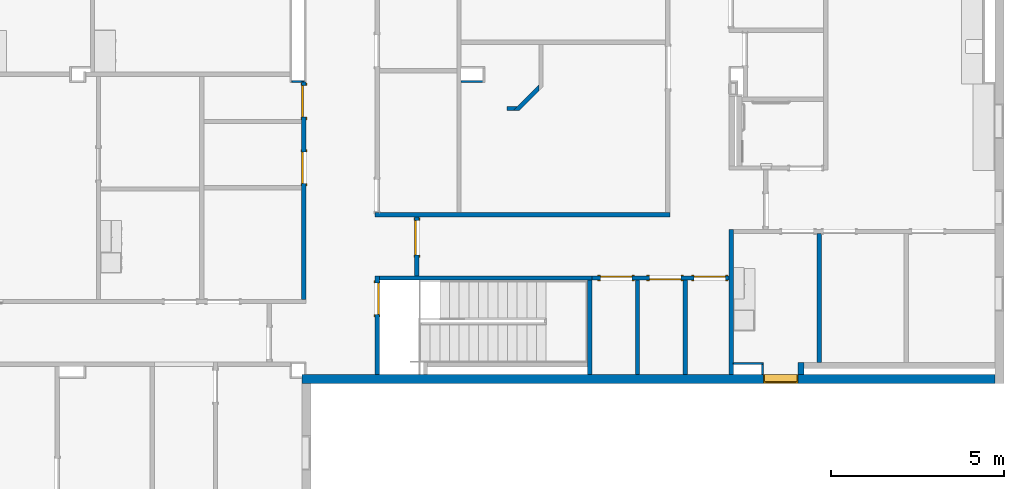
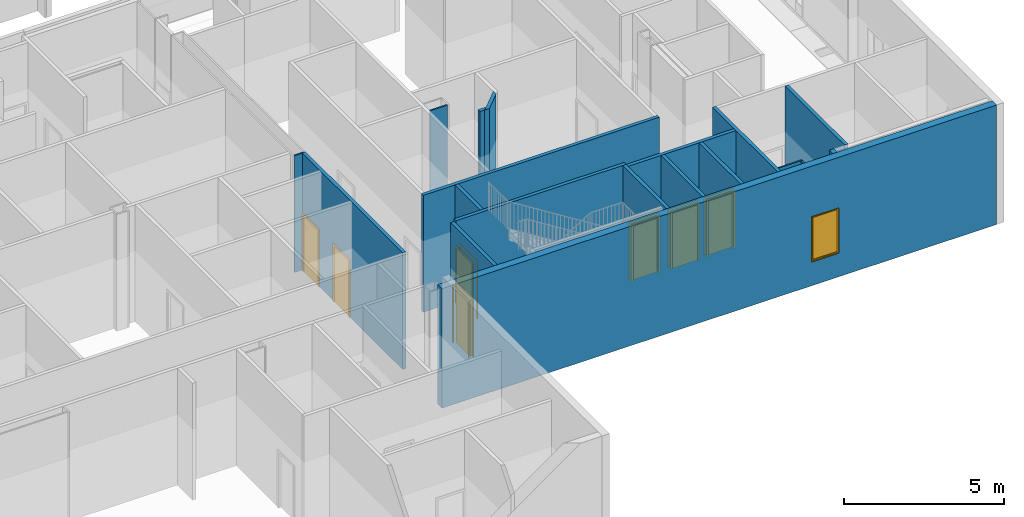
# One storey, part 23 of 82: 19 walls, 7 doors, 1 window, 8 openings.
"""IFC2X3 building model written with IfcOpenShell, lengths in metres."""

from ifc_helpers import new_model, entity, si_unit, converted_unit, frame, frame_2d, origin, origin_2d_with_axis, place, context, project, spatial, polyline, rectangle, outline, extrude, source, transform, mapped, material, layer, layer_set, layer_usage, type_object, type_shapes, element, fill, save


model = new_model("IFC2X3")

# Units and contexts
model_context = context("Model", 3, precision=1e-09, world=origin())
plan_context = context("Plan", 3, precision=1e-09, world=origin())
ifc_project = project(units=[si_unit("LENGTHUNIT", "METRE"), si_unit("AREAUNIT", "SQUARE_METRE"), si_unit("VOLUMEUNIT", "CUBIC_METRE"), converted_unit("PLANEANGLEUNIT", "DEGREE", entity("IfcRatioMeasure", 0.01745329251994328), si_unit("PLANEANGLEUNIT", "RADIAN"), dimensions=[0, 0, 0, 0, 0, 0, 0]), si_unit("TIMEUNIT", "SECOND")], contexts=[model_context, plan_context])

# Site, building, storey
site_placement = place(None, origin())
site = spatial("IfcSite", under=ifc_project, at=site_placement, Name="Default", CompositionType="ELEMENT")
building_placement = place(site_placement, origin())
building = spatial("IfcBuilding", under=site, at=building_placement, CompositionType="ELEMENT")
storey_placement = place(building_placement, origin())
storey = spatial("IfcBuildingStorey", under=building, at=storey_placement, Name="First Floor", CompositionType="ELEMENT", Elevation=-3.531500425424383e-13)

# Wall, opening, window
ifc_material_1 = material(Name="Insulation - Insulated Panel")
ifc_layer_1 = layer(ifc_material_1, 0.042)
ifc_material_2 = material(Name="Metal - Firring")
ifc_layer_2 = layer(ifc_material_2, 0.038)
ifc_material_3 = material(Name="Wood - Sheathing - plywood")
ifc_layer_3 = layer(ifc_material_3, 0.019)
ifc_material_4 = material(Name="Metal - Stud Layer")
ifc_layer_4 = layer(ifc_material_4, 0.152)
ifc_material_5 = material(Name="Plasterboard")
ifc_layer_5 = layer(ifc_material_5, 0.016)
ifc_layer_set_1 = layer_set([ifc_layer_1, ifc_layer_2, ifc_layer_3, ifc_layer_4, ifc_layer_5], Name="Basic Wall:Exterior - Insul Panel on Mtl. Stud")
ifc_layer_usage_1 = layer_usage(ifc_layer_set_1, "AXIS2", "NEGATIVE", 0.1335)
wall_1_placement = place(storey_placement, frame((0.112999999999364, 9.793499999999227, 0.0), z_axis=(0.0, 0.0, 1.0), x_axis=(-1.0, 0.0, 0.0)))
wall_1 = element("IfcWallStandardCase", 1, at=wall_1_placement, inside=storey, material=ifc_layer_usage_1, Name="Basic Wall:Exterior - Insul Panel on Mtl. Stud", ObjectType="Basic Wall:Exterior - Insul Panel on Mtl. Stud", context=model_context, shape_type="SweptSolid", body=[
    extrude(rectangle(XDim=20.06000000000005, YDim=0.267, at=frame_2d((10.03000000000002, 0.0), x_axis=(-1.0, 0.0))), origin(), (0.0, 0.0, 1.0), 4.57000000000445),
])
opening_1_placement = place(wall_1_placement, frame((5.696303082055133, -0.1335000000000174, 0.9049999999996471)))
opening_1 = element("IfcOpeningElement", 2, at=opening_1_placement, cuts=wall_1, Name="M_Fixed:1735 x 1000mm:1735 x 1000mm:1", ObjectType="Opening", context=model_context, shape_type="SweptSolid", body=[
    extrude(rectangle(XDim=1.734999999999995, YDim=0.9999999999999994, at=frame_2d((0.8674999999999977, 0.5000000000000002), x_axis=(1.0, 0.0))), frame((0.0, 0.0, 0.0), z_axis=(0.0, 1.0, 0.0), x_axis=(0.0, 0.0, 1.0)), (0.0, 0.0, 1.0), 0.267),
])
window_style = type_object("IfcWindowStyle", Name="1735 x 1000mm", ConstructionType="NOTDEFINED", OperationType="NOTDEFINED", ParameterTakesPrecedence=False, Sizeable=False)
shared_shape_1 = source(origin(), model_context, "Body", "SweptSolid", [
    extrude(rectangle(XDim=0.012, YDim=0.873999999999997, at=origin_2d_with_axis()), frame((0.5000000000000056, 0.2259999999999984, 0.06299999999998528), z_axis=(0.0, 0.0, 1.0), x_axis=(0.0, -1.0, 0.0)), (0.0, 0.0, 1.0), 1.609000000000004),
    extrude(outline(polyline([(-0.4809999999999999, -0.8485000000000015), (0.4809999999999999, -0.8485000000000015), (0.4809999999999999, 0.8485000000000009), (-0.4809999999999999, 0.8485000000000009), (-0.4809999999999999, -0.8485000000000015)]), holes=[polyline([(-0.4369999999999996, -0.8045000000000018), (-0.4369999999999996, 0.8045000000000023), (0.4369999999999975, 0.8045000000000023), (0.4369999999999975, -0.8045000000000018), (-0.4369999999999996, -0.8045000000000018)])]), frame((0.5000000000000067, 0.203999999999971, 0.8674999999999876), z_axis=(0.0, 1.0, 0.0), x_axis=(1.0, 0.0, 0.0)), (0.0, 0.0, 1.0), 0.04400000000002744),
    extrude(outline(polyline([(-0.4999999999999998, -0.8674999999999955), (0.4999999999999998, -0.8674999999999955), (0.4999999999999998, 0.8674999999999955), (-0.4999999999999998, 0.8674999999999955), (-0.4999999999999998, -0.8674999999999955)]), holes=[polyline([(-0.4810000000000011, -0.8484999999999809), (-0.4810000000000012, 0.8485000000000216), (0.4809999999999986, 0.8485000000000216), (0.4809999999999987, -0.8484999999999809), (-0.4810000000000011, -0.8484999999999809)])]), frame((0.500000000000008, 0.203999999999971, 0.8675000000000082), z_axis=(0.0, 1.0, 0.0), x_axis=(1.0, 0.0, 0.0)), (0.0, 0.0, 1.0), 0.06300000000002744),
    extrude(outline(polyline([(-0.5000000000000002, -0.867499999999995), (0.5000000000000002, -0.867499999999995), (0.5000000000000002, 0.867499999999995), (-0.5000000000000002, 0.867499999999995), (-0.5000000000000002, -0.867499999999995)]), holes=[polyline([(-0.4679999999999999, -0.8354999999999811), (-0.4679999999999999, 0.8355000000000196), (0.4680000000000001, 0.8355000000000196), (0.4680000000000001, -0.8354999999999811), (-0.4679999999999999, -0.8354999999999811)])]), frame((0.5000000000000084, 0.0, 0.8675000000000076), z_axis=(0.0, 1.0, 0.0), x_axis=(1.0, 0.0, 0.0)), (0.0, 0.0, 1.0), 0.2039999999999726),
])
type_shapes(window_style, [shared_shape_1])
window_placement = place(opening_1_placement, origin())
window = element("IfcWindow", 3, at=window_placement, inside=storey, type_object=window_style, Name="M_Fixed:1735 x 1000mm:1735 x 1000mm", ObjectType="1735 x 1000mm", OverallHeight=1.734999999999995, OverallWidth=1.0, context=model_context, shape_type="MappedRepresentation", body=[
    mapped(shared_shape_1, transform((0.0, 0.0, 0.0), scale=1.0)),
])
fill(opening_1, window)

# Wall, openings, doors
ifc_layer_6 = layer(ifc_material_5, 0.016)
ifc_layer_7 = layer(ifc_material_4, 0.092)
ifc_layer_8 = layer(ifc_material_5, 0.016)
ifc_layer_set_2 = layer_set([ifc_layer_6, ifc_layer_7, ifc_layer_8], Name="Basic Wall:Interior - Partition (92mm Stud)")
ifc_layer_usage_2 = layer_usage(ifc_layer_set_2, "AXIS2", "NEGATIVE", 0.062)
wall_2_placement = place(storey_placement, frame((-11.54999985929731, 12.71799999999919, 0.0)))
wall_2 = element("IfcWallStandardCase", 4, at=wall_2_placement, inside=storey, material=ifc_layer_usage_2, Name="Basic Wall:Interior - Partition (92mm Stud)", ObjectType="Basic Wall:Interior - Partition (92mm Stud)", context=model_context, shape_type="SweptSolid", body=[
    extrude(rectangle(XDim=3.970024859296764, YDim=0.1240000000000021, at=frame_2d((1.985012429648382, 0.0), x_axis=(-1.0, 0.0))), origin(), (0.0, 0.0, 1.0), 4.468000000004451),
])
opening_2_placement = place(wall_2_placement, frame((0.2409998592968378, -0.06200000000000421, 0.0)))
opening_2 = element("IfcOpeningElement", 5, at=opening_2_placement, cuts=wall_2, Name=":1", ObjectType="Opening", context=model_context, shape_type="SweptSolid", body=[
    extrude(rectangle(XDim=0.9149999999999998, YDim=2.134, at=frame_2d((1.067, 0.4575000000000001), x_axis=(0.0, -1.0))), frame((0.0, 0.0, 0.0), z_axis=(0.0, 1.0, 0.0), x_axis=(0.0, 0.0, 1.0)), (0.0, 0.0, 1.0), 0.124),
])
opening_3_placement = place(wall_2_placement, frame((2.95502485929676, -0.0620000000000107, 0.0)))
opening_3 = element("IfcOpeningElement", 6, at=opening_3_placement, cuts=wall_2, Name=":1", ObjectType="Opening", context=model_context, shape_type="SweptSolid", body=[
    extrude(rectangle(XDim=0.9149999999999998, YDim=2.134, at=frame_2d((1.067, 0.4575), x_axis=(0.0, 1.0))), frame((0.0, 0.0, 0.0), z_axis=(0.0, 1.0, 0.0), x_axis=(0.0, 0.0, 1.0)), (0.0, 0.0, 1.0), 0.124),
])
opening_4_placement = place(wall_2_placement, frame((2.575999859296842, 0.06199999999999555, 0.0)))
opening_4 = element("IfcOpeningElement", 7, at=opening_4_placement, cuts=wall_2, Name=":1", ObjectType="Opening", context=model_context, shape_type="SweptSolid", body=[
    extrude(rectangle(XDim=0.9149999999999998, YDim=2.134, at=frame_2d((1.067, 0.4575000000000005), x_axis=(0.0, -1.0))), frame((0.0, 0.0, 0.0), z_axis=(0.0, -1.0, 0.0), x_axis=(0.0, 0.0, 1.0)), (0.0, 0.0, 1.0), 0.124),
])
door_style_1 = type_object("IfcDoorStyle", Name="0915 x 2134mm", ConstructionType="NOTDEFINED", OperationType="SINGLE_SWING_RIGHT", ParameterTakesPrecedence=False, Sizeable=False)
shared_shape_2 = source(origin(), model_context, "Body", "SweptSolid", [
    extrude(outline(polyline([(-0.5335, -1.123999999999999), (0.5334999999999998, -1.123999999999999), (0.5334999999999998, 1.086), (0.4574999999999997, 1.086), (0.4574999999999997, -1.048000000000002), (-0.4574999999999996, -1.048000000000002), (-0.4574999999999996, 1.086), (-0.5335, 1.086), (-0.5335, -1.123999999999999)])), frame((0.4575000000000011, 0.1239999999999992, 1.086), z_axis=(0.0, 1.0, 0.0), x_axis=(1.0, 0.0, 0.0)), (0.0, 0.0, 1.0), 0.02499999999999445),
    extrude(outline(polyline([(-1.123999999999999, -0.5334999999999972), (1.085999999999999, -0.5334999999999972), (1.085999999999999, -0.4575000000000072), (-1.048, -0.4575000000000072), (-1.048, 0.4575000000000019), (1.085999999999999, 0.4575000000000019), (1.085999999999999, 0.5335000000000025), (-1.123999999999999, 0.5335000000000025), (-1.123999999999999, -0.5334999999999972)])), frame((0.4575000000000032, -0.02500000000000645, 1.085999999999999), z_axis=(0.0, 1.0, 0.0), x_axis=(0.0, 0.0, -1.0)), (0.0, 0.0, 1.0), 0.02500000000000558),
    extrude(rectangle(XDim=0.051, YDim=0.9149999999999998, at=origin_2d_with_axis()), frame((0.4575000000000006, 0.09849999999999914, 0.0), z_axis=(0.0, 0.0, 1.0), x_axis=(0.0, 1.0, 0.0)), (0.0, 0.0, 1.0), 2.133999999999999),
])
type_shapes(door_style_1, [shared_shape_2])
door_1_placement = place(opening_3_placement, origin())
door_1 = element("IfcDoor", 8, at=door_1_placement, inside=storey, type_object=door_style_1, Name="M_Single-Flush:0915 x 2134mm:0915 x 2134mm", ObjectType="0915 x 2134mm", OverallHeight=2.134, OverallWidth=0.9149999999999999, context=model_context, shape_type="MappedRepresentation", body=[
    mapped(shared_shape_2, transform((0.0, 0.0, 0.0), scale=1.0)),
])
fill(opening_3, door_1)
door_style_2 = type_object("IfcDoorStyle", Name="0915 x 2134mm", ConstructionType="NOTDEFINED", OperationType="SINGLE_SWING_LEFT", ParameterTakesPrecedence=False, Sizeable=False)
shared_shape_3 = source(origin(), model_context, "Body", "SweptSolid", [
    extrude(outline(polyline([(-0.5335, -1.123999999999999), (0.5334999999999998, -1.123999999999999), (0.5334999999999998, 1.086), (0.4574999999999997, 1.086), (0.4574999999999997, -1.048000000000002), (-0.4574999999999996, -1.048000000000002), (-0.4574999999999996, 1.086), (-0.5335, 1.086), (-0.5335, -1.123999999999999)])), frame((0.4575000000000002, 0.1489999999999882, 1.086), z_axis=(0.0, -1.0, 0.0), x_axis=(-1.0, 0.0, 0.0)), (0.0, 0.0, 1.0), 0.02499999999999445),
    extrude(outline(polyline([(-1.123999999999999, -0.5334999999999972), (1.085999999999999, -0.5334999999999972), (1.085999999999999, -0.4575000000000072), (-1.048, -0.4575000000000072), (-1.048, 0.4575000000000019), (1.085999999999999, 0.4575000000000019), (1.085999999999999, 0.5335000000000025), (-1.123999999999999, 0.5335000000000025), (-1.123999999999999, -0.5334999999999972)])), frame((0.4574999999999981, 0.0, 1.085999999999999), z_axis=(0.0, -1.0, 0.0), x_axis=(0.0, 0.0, -1.0)), (0.0, 0.0, 1.0), 0.02500000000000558),
    extrude(rectangle(XDim=0.9149999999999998, YDim=0.051, at=origin_2d_with_axis()), frame((0.4575000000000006, 0.09849999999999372, 0.0)), (0.0, 0.0, 1.0), 2.133999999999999),
])
type_shapes(door_style_2, [shared_shape_3])
door_2_placement = place(opening_4_placement, frame((0.0, 0.0, 0.0), z_axis=(0.0, 0.0, 1.0), x_axis=(-1.0, 0.0, 0.0)))
door_2 = element("IfcDoor", 9, at=door_2_placement, inside=storey, type_object=door_style_2, Name="M_Single-Flush:0915 x 2134mm:0915 x 2134mm", ObjectType="0915 x 2134mm", OverallHeight=2.134, OverallWidth=0.9149999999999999, context=model_context, shape_type="MappedRepresentation", body=[
    mapped(shared_shape_3, transform((0.0, 0.0, 0.0), scale=1.0)),
])
fill(opening_4, door_2)
door_3_placement = place(opening_2_placement, origin())
door_3 = element("IfcDoor", 10, at=door_3_placement, inside=storey, type_object=door_style_2, Name="M_Single-Flush:0915 x 2134mm:0915 x 2134mm", ObjectType="0915 x 2134mm", OverallHeight=2.134, OverallWidth=0.9149999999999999, context=model_context, shape_type="MappedRepresentation", body=[
    mapped(shared_shape_3, transform((0.0, 0.0, 0.0), scale=1.0)),
])
fill(opening_2, door_3)

wall_3_placement = place(storey_placement, frame((-19.89200000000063, 18.40699999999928, 0.0), z_axis=(0.0, 0.0, 1.0), x_axis=(0.0, -1.0, 0.0)))
wall_3 = element("IfcWallStandardCase", 11, at=wall_3_placement, inside=storey, material=ifc_layer_usage_2, Name="Basic Wall:Interior - Partition (92mm Stud)", ObjectType="Basic Wall:Interior - Partition (92mm Stud)", context=model_context, shape_type="SweptSolid", body=[
    extrude(rectangle(XDim=6.303000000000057, YDim=0.1239999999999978, at=frame_2d((3.151500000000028, 0.0), x_axis=(-1.0, 0.0))), origin(), (0.0, 0.0, 1.0), 4.468000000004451),
])
opening_5_placement = place(wall_3_placement, frame((1.03299999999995, 0.06200000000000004, 0.0)))
opening_5 = element("IfcOpeningElement", 12, at=opening_5_placement, cuts=wall_3, Name="M_Single-Flush:0915 x 2134mm:0915 x 2134mm:1", ObjectType="Opening", context=model_context, shape_type="SweptSolid", body=[
    extrude(rectangle(XDim=0.9149999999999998, YDim=2.134, at=frame_2d((1.067, 0.4575000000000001), x_axis=(0.0, -1.0))), frame((0.0, 0.0, 0.0), z_axis=(0.0, -1.0, 0.0), x_axis=(0.0, 0.0, 1.0)), (0.0, 0.0, 1.0), 0.124),
])
opening_6_placement = place(wall_3_placement, frame((2.953000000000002, 0.06199999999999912, 0.0)))
opening_6 = element("IfcOpeningElement", 13, at=opening_6_placement, cuts=wall_3, Name="M_Single-Flush:0915 x 2134mm:0915 x 2134mm:1", ObjectType="Opening", context=model_context, shape_type="SweptSolid", body=[
    extrude(rectangle(XDim=0.9149999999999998, YDim=2.134, at=frame_2d((1.067, 0.4574999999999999), x_axis=(0.0, -1.0))), frame((0.0, 0.0, 0.0), z_axis=(0.0, -1.0, 0.0), x_axis=(0.0, 0.0, 1.0)), (0.0, 0.0, 1.0), 0.124),
])
door_4_placement = place(opening_5_placement, frame((0.0, 0.0, 0.0), z_axis=(0.0, 0.0, 1.0), x_axis=(-1.0, 0.0, 0.0)))
door_4 = element("IfcDoor", 14, at=door_4_placement, inside=storey, type_object=door_style_2, Name="M_Single-Flush:0915 x 2134mm:0915 x 2134mm", ObjectType="0915 x 2134mm", OverallHeight=2.134, OverallWidth=0.9149999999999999, context=model_context, shape_type="MappedRepresentation", body=[
    mapped(shared_shape_3, transform((0.0, 0.0, 0.0), scale=1.0)),
])
fill(opening_5, door_4)
door_5_placement = place(opening_6_placement, frame((0.0, 0.0, 0.0), z_axis=(0.0, 0.0, 1.0), x_axis=(-1.0, 0.0, 0.0)))
door_5 = element("IfcDoor", 15, at=door_5_placement, inside=storey, type_object=door_style_2, Name="M_Single-Flush:0915 x 2134mm:0915 x 2134mm", ObjectType="0915 x 2134mm", OverallHeight=2.134, OverallWidth=0.9149999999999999, context=model_context, shape_type="MappedRepresentation", body=[
    mapped(shared_shape_3, transform((0.0, 0.0, 0.0), scale=1.0)),
])
fill(opening_6, door_5)

# Walls
wall_4_placement = place(storey_placement, frame((-9.2899750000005, 14.55199999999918, 0.0), z_axis=(0.0, 0.0, 1.0), x_axis=(-1.0, 0.0, 0.0)))
element("IfcWallStandardCase", 16, at=wall_4_placement, inside=storey, material=ifc_layer_usage_2, Name="Basic Wall:Interior - Partition (92mm Stud)", ObjectType="Basic Wall:Interior - Partition (92mm Stud)", context=model_context, shape_type="SweptSolid", body=[
    extrude(rectangle(XDim=8.540025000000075, YDim=0.1240000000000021, at=frame_2d((4.270012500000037, 0.0), x_axis=(-1.0, 0.0))), origin(), (0.0, 0.0, 1.0), 4.468000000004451),
])
wall_5_placement = place(storey_placement, frame((-7.517975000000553, 9.92699999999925, 0.0), z_axis=(0.0, 0.0, 1.0), x_axis=(0.0, 1.0, 0.0)))
element("IfcWallStandardCase", 17, at=wall_5_placement, inside=storey, material=ifc_layer_usage_2, Name="Basic Wall:Interior - Partition (92mm Stud)", ObjectType="Basic Wall:Interior - Partition (92mm Stud)", context=model_context, shape_type="SweptSolid", body=[
    extrude(rectangle(XDim=4.202999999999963, YDim=0.124, at=frame_2d((2.101499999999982, 0.0), x_axis=(-1.0, 0.0))), origin(), (0.0, 0.0, 1.0), 4.468000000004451),
])
ifc_material_6 = material(Name="Type-X Plasterboard")
ifc_layer_9 = layer(ifc_material_6, 0.016)
ifc_layer_10 = layer(ifc_material_4, 0.092)
ifc_layer_11 = layer(ifc_material_6, 0.016)
ifc_layer_set_3 = layer_set([ifc_layer_9, ifc_layer_10, ifc_layer_11], Name="Basic Wall:Interior - Rated 1-HR (92mm Stud)")
ifc_layer_usage_3 = layer_usage(ifc_layer_set_3, "AXIS2", "NEGATIVE", 0.06200000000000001)
wall_6_placement = place(storey_placement, frame((-17.70600000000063, 12.71799999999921, 0.0)))
element("IfcWallStandardCase", 18, at=wall_6_placement, inside=storey, material=ifc_layer_usage_3, Name="Basic Wall:Interior - Rated 1-HR (92mm Stud)", ObjectType="Basic Wall:Interior - Rated 1-HR (92mm Stud)", context=model_context, shape_type="SweptSolid", body=[
    extrude(rectangle(XDim=6.156000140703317, YDim=0.1240000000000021, at=frame_2d((3.078000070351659, 0.0), x_axis=(-1.0, 0.0))), origin(), (0.0, 0.0, 1.0), 4.570000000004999),
])
wall_7_placement = place(storey_placement, frame((-11.61199985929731, 12.65599999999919, 0.0), z_axis=(0.0, 0.0, 1.0), x_axis=(0.0, -1.0, 0.0)))
element("IfcWallStandardCase", 19, at=wall_7_placement, inside=storey, material=ifc_layer_usage_3, Name="Basic Wall:Interior - Rated 1-HR (92mm Stud)", ObjectType="Basic Wall:Interior - Rated 1-HR (92mm Stud)", context=model_context, shape_type="SweptSolid", body=[
    extrude(rectangle(XDim=2.728999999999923, YDim=0.1240000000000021, at=frame_2d((1.364499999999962, 0.0), x_axis=(-1.0, 0.0))), origin(), (0.0, 0.0, 1.0), 4.570000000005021),
])

# Wall, opening, door
wall_8_placement = place(storey_placement, frame((-17.76800000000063, 9.926999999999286, 0.0), z_axis=(0.0, 0.0, 1.0), x_axis=(0.0, 1.0, 0.0)))
wall_8 = element("IfcWallStandardCase", 20, at=wall_8_placement, inside=storey, material=ifc_layer_usage_3, Name="Basic Wall:Interior - Rated 1-HR (92mm Stud)", ObjectType="Basic Wall:Interior - Rated 1-HR (92mm Stud)", context=model_context, shape_type="SweptSolid", body=[
    extrude(rectangle(XDim=2.852999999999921, YDim=0.1240000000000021, at=frame_2d((1.426499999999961, 0.0), x_axis=(-1.0, 0.0))), origin(), (0.0, 0.0, 1.0), 4.46800000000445),
])
opening_7_placement = place(wall_8_placement, frame((2.648999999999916, 0.06199999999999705, 0.0)))
opening_7 = element("IfcOpeningElement", 21, at=opening_7_placement, cuts=wall_8, Name="M_Single-Flush:0915 x 2134mm Rated:0915 x 2134mm Rated:1", ObjectType="Opening", context=model_context, shape_type="SweptSolid", body=[
    extrude(rectangle(XDim=0.9149999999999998, YDim=2.134, at=frame_2d((1.067, 0.4574999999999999), x_axis=(0.0, -1.0))), frame((0.0, 0.0, 0.0), z_axis=(0.0, -1.0, 0.0), x_axis=(0.0, 0.0, 1.0)), (0.0, 0.0, 1.0), 0.124),
])
door_style_3 = type_object("IfcDoorStyle", Name="0915 x 2134mm Rated", ConstructionType="NOTDEFINED", OperationType="SINGLE_SWING_LEFT", ParameterTakesPrecedence=False, Sizeable=False)
shared_shape_4 = source(origin(), model_context, "Body", "SweptSolid", [
    extrude(outline(polyline([(-0.5335, -1.123999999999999), (0.5334999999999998, -1.123999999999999), (0.5334999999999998, 1.086), (0.4574999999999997, 1.086), (0.4574999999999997, -1.048000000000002), (-0.4574999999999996, -1.048000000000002), (-0.4574999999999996, 1.086), (-0.5335, 1.086), (-0.5335, -1.123999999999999)])), frame((0.4575000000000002, 0.1489999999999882, 1.086), z_axis=(0.0, -1.0, 0.0), x_axis=(-1.0, 0.0, 0.0)), (0.0, 0.0, 1.0), 0.02499999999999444),
    extrude(outline(polyline([(-1.123999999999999, -0.5334999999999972), (1.085999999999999, -0.5334999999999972), (1.085999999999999, -0.4575000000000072), (-1.048, -0.4575000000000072), (-1.048, 0.4575000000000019), (1.085999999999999, 0.4575000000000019), (1.085999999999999, 0.5335000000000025), (-1.123999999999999, 0.5335000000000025), (-1.123999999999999, -0.5334999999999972)])), frame((0.4574999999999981, 0.0, 1.085999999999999), z_axis=(0.0, -1.0, 0.0), x_axis=(0.0, 0.0, -1.0)), (0.0, 0.0, 1.0), 0.02500000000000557),
    extrude(rectangle(XDim=0.9149999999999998, YDim=0.051, at=origin_2d_with_axis()), frame((0.4575000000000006, 0.09849999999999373, 0.0)), (0.0, 0.0, 1.0), 2.133999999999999),
])
type_shapes(door_style_3, [shared_shape_4])
door_6_placement = place(opening_7_placement, frame((0.0, 0.0, 0.0), z_axis=(0.0, 0.0, 1.0), x_axis=(-1.0, 0.0, 0.0)))
door_6 = element("IfcDoor", 22, at=door_6_placement, inside=storey, type_object=door_style_3, Name="M_Single-Flush:0915 x 2134mm Rated:0915 x 2134mm Rated", ObjectType="0915 x 2134mm Rated", OverallHeight=2.134, OverallWidth=0.9149999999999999, context=model_context, shape_type="MappedRepresentation", body=[
    mapped(shared_shape_4, transform((0.0, 0.0, 0.0), scale=1.0)),
])
fill(opening_7, door_6)

wall_9_placement = place(storey_placement, frame((-16.61800000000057, 12.7799999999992, 0.0), z_axis=(0.0, 0.0, 1.0), x_axis=(0.0, 1.0, 0.0)))
wall_9 = element("IfcWallStandardCase", 23, at=wall_9_placement, inside=storey, material=ifc_layer_usage_2, Name="Basic Wall:Interior - Partition (92mm Stud)", ObjectType="Basic Wall:Interior - Partition (92mm Stud)", context=model_context, shape_type="SweptSolid", body=[
    extrude(rectangle(XDim=1.709999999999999, YDim=0.1240000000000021, at=frame_2d((0.8549999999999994, 0.0), x_axis=(-1.0, 0.0))), origin(), (0.0, 0.0, 1.0), 4.46800000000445),
])
opening_8_placement = place(wall_9_placement, frame((0.6099999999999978, -0.06200000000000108, 0.0)))
opening_8 = element("IfcOpeningElement", 24, at=opening_8_placement, cuts=wall_9, Name="M_Single-Flush:1000 x 2134mm:1000 x 2134mm:1", ObjectType="Opening", context=model_context, shape_type="SweptSolid", body=[
    extrude(rectangle(XDim=0.9999999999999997, YDim=2.134, at=frame_2d((1.067, 0.5000000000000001), x_axis=(0.0, 1.0))), frame((0.0, 0.0, 0.0), z_axis=(0.0, 1.0, 0.0), x_axis=(0.0, 0.0, 1.0)), (0.0, 0.0, 1.0), 0.124),
])
door_style_4 = type_object("IfcDoorStyle", Name="1000 x 2134mm", ConstructionType="NOTDEFINED", OperationType="SINGLE_SWING_RIGHT", ParameterTakesPrecedence=False, Sizeable=False)
shared_shape_5 = source(origin(), model_context, "Body", "SweptSolid", [
    extrude(outline(polyline([(-0.576, -1.123999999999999), (0.5759999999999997, -1.123999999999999), (0.5759999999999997, 1.086), (0.4999999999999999, 1.086), (0.4999999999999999, -1.048000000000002), (-0.4999999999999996, -1.048000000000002), (-0.4999999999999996, 1.086), (-0.576, 1.086), (-0.576, -1.123999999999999)])), frame((0.5000000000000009, 0.1239999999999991, 1.086), z_axis=(0.0, 1.0, 0.0), x_axis=(1.0, 0.0, 0.0)), (0.0, 0.0, 1.0), 0.02499999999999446),
    extrude(outline(polyline([(-1.124, -0.575999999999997), (1.086, -0.575999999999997), (1.086, -0.5000000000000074), (-1.048, -0.5000000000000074), (-1.048, 0.5000000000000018), (1.086, 0.5000000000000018), (1.086, 0.5760000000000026), (-1.124, 0.5760000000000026), (-1.124, -0.575999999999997)])), frame((0.5000000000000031, -0.02500000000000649, 1.086), z_axis=(0.0, 1.0, 0.0), x_axis=(0.0, 0.0, -1.0)), (0.0, 0.0, 1.0), 0.02500000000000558),
    extrude(rectangle(XDim=0.051, YDim=0.9999999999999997, at=origin_2d_with_axis()), frame((0.5000000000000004, 0.09849999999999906, 0.0), z_axis=(0.0, 0.0, 1.0), x_axis=(0.0, 1.0, 0.0)), (0.0, 0.0, 1.0), 2.133999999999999),
])
type_shapes(door_style_4, [shared_shape_5])
door_7_placement = place(opening_8_placement, origin())
door_7 = element("IfcDoor", 25, at=door_7_placement, inside=storey, type_object=door_style_4, Name="M_Single-Flush:1000 x 2134mm:1000 x 2134mm", ObjectType="1000 x 2134mm", OverallHeight=2.134, OverallWidth=1.0, context=model_context, shape_type="MappedRepresentation", body=[
    mapped(shared_shape_5, transform((0.0, 0.0, 0.0), scale=1.0)),
])
fill(opening_8, door_7)

# Walls
ifc_layer_12 = layer(ifc_material_4, 0.038)
ifc_layer_13 = layer(ifc_material_5, 0.016)
ifc_layer_set_4 = layer_set([ifc_layer_12, ifc_layer_13], Name="Basic Wall:Interior - Furring (38 mm Stud)")
ifc_layer_usage_4 = layer_usage(ifc_layer_set_4, "AXIS2", "NEGATIVE", 0.027)
wall_10_placement = place(storey_placement, frame((-20.23600000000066, 18.40699999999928, 0.0)))
element("IfcWallStandardCase", 26, at=wall_10_placement, inside=storey, material=ifc_layer_usage_4, Name="Basic Wall:Interior - Furring (38 mm Stud)", ObjectType="Basic Wall:Interior - Furring (38 mm Stud)", context=model_context, shape_type="SweptSolid", body=[
    extrude(outline(polyline([(0.2820000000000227, -0.02700000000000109), (0.2820000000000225, 0.0), (0.352000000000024, 0.0), (0.3520000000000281, 0.02699999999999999), (0.0, 0.02700000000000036), (0.0, -0.02700000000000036), (0.2820000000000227, -0.02700000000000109)])), origin(), (0.0, 0.0, 1.0), 4.468000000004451),
])
wall_11_placement = place(storey_placement, frame((-4.967975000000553, 10.26999999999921, 0.0), z_axis=(0.0, 0.0, 1.0), x_axis=(0.0, 1.0, 0.0)))
element("IfcWallStandardCase", 27, at=wall_11_placement, inside=storey, material=ifc_layer_usage_2, Name="Basic Wall:Interior - Partition (92mm Stud)", ObjectType="Basic Wall:Interior - Partition (92mm Stud)", context=model_context, shape_type="SweptSolid", body=[
    extrude(rectangle(XDim=3.735999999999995, YDim=0.124, at=frame_2d((1.867999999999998, 0.0), x_axis=(-1.0, 0.0))), origin(), (0.0, 0.0, 1.0), 4.46800000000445),
])
wall_12_placement = place(storey_placement, frame((-10.23200000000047, 12.65599999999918, 0.0), z_axis=(0.0, 0.0, 1.0), x_axis=(0.0, -1.0, 0.0)))
element("IfcWallStandardCase", 28, at=wall_12_placement, inside=storey, material=ifc_layer_usage_2, Name="Basic Wall:Interior - Partition (92mm Stud)", ObjectType="Basic Wall:Interior - Partition (92mm Stud)", context=model_context, shape_type="SweptSolid", body=[
    extrude(rectangle(XDim=2.728999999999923, YDim=0.1240000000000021, at=frame_2d((1.364499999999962, 0.0), x_axis=(-1.0, 0.0))), origin(), (0.0, 0.0, 1.0), 4.46800000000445),
])
wall_13_placement = place(storey_placement, frame((-8.852000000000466, 12.65599999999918, 0.0), z_axis=(0.0, 0.0, 1.0), x_axis=(0.0, -1.0, 0.0)))
element("IfcWallStandardCase", 29, at=wall_13_placement, inside=storey, material=ifc_layer_usage_2, Name="Basic Wall:Interior - Partition (92mm Stud)", ObjectType="Basic Wall:Interior - Partition (92mm Stud)", context=model_context, shape_type="SweptSolid", body=[
    extrude(rectangle(XDim=2.728999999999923, YDim=0.124, at=frame_2d((1.364499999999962, 0.0), x_axis=(-1.0, 0.0))), origin(), (0.0, 0.0, 1.0), 4.46800000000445),
])
ifc_layer_14 = layer(ifc_material_4, 0.152)
ifc_layer_15 = layer(ifc_material_5, 0.016)
ifc_layer_set_5 = layer_set([ifc_layer_14, ifc_layer_15], Name="Basic Wall:Interior - Furring (152 mm Stud)")
ifc_layer_usage_5 = layer_usage(ifc_layer_set_5, "AXIS2", "POSITIVE", -0.08399999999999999)
wall_14_placement = place(storey_placement, frame((-5.49930308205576, 9.926999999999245, 0.0), z_axis=(0.0, 0.0, 1.0), x_axis=(0.0, 1.0, 0.0)))
element("IfcWallStandardCase", 30, at=wall_14_placement, inside=storey, material=ifc_layer_usage_5, Name="Basic Wall:Interior - Furring (152 mm Stud)", ObjectType="Basic Wall:Interior - Furring (152 mm Stud)", context=model_context, shape_type="SweptSolid", body=[
    extrude(rectangle(XDim=0.3429999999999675, YDim=0.1680000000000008, at=frame_2d((0.1714999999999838, 0.0), x_axis=(-1.0, 0.0))), origin(), (0.0, 0.0, 1.0), 4.46800000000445),
])
ifc_layer_usage_6 = layer_usage(ifc_layer_set_4, "AXIS2", "POSITIVE", -0.027)
wall_15_placement = place(storey_placement, frame((-14.70397500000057, 18.40699999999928, 0.0), z_axis=(0.0, 0.0, 1.0), x_axis=(-1.0, 0.0, 0.0)))
element("IfcWallStandardCase", 31, at=wall_15_placement, inside=storey, material=ifc_layer_usage_6, Name="Basic Wall:Interior - Furring (38 mm Stud)", ObjectType="Basic Wall:Interior - Furring (38 mm Stud)", context=model_context, shape_type="SweptSolid", body=[
    extrude(rectangle(XDim=0.6320250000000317, YDim=0.05400000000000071, at=frame_2d((0.3160125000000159, 0.0), x_axis=(-1.0, 0.0))), origin(), (0.0, 0.0, 1.0), 4.46800000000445),
])
wall_16_placement = place(storey_placement, frame((-6.610303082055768, 10.21599999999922, 0.0), z_axis=(0.0, 0.0, 1.0), x_axis=(0.0, -1.0, 0.0)))
element("IfcWallStandardCase", 32, at=wall_16_placement, inside=storey, material=ifc_layer_usage_6, Name="Basic Wall:Interior - Furring (38 mm Stud)", ObjectType="Basic Wall:Interior - Furring (38 mm Stud)", context=model_context, shape_type="SweptSolid", body=[
    extrude(rectangle(XDim=0.2889999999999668, YDim=0.05400000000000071, at=frame_2d((0.1444999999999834, 0.0), x_axis=(-1.0, 0.0))), origin(), (0.0, 0.0, 1.0), 4.46800000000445),
])
wall_17_placement = place(storey_placement, frame((-7.455975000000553, 10.24299999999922, 0.0)))
element("IfcWallStandardCase", 33, at=wall_17_placement, inside=storey, material=ifc_layer_usage_6, Name="Basic Wall:Interior - Furring (38 mm Stud)", ObjectType="Basic Wall:Interior - Furring (38 mm Stud)", context=model_context, shape_type="SweptSolid", body=[
    extrude(rectangle(XDim=0.872671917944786, YDim=0.05400000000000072, at=frame_2d((0.436335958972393, 0.0), x_axis=(-1.0, 0.0))), origin(), (0.0, 0.0, 1.0), 4.46800000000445),
])
wall_18_placement = place(storey_placement, frame((-13.04516888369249, 18.27024264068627, 0.0), z_axis=(0.0, 0.0, 1.0), x_axis=(-0.7071067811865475, -0.7071067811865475, 0.0)))
element("IfcWallStandardCase", 34, at=wall_18_placement, inside=storey, material=ifc_layer_usage_2, Name="Basic Wall:Interior - Partition (92mm Stud)", ObjectType="Basic Wall:Interior - Partition (92mm Stud)", context=model_context, shape_type="SweptSolid", body=[
    extrude(outline(polyline([(1.062195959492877, -0.06199999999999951), (0.9381959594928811, 0.06199999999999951), (0.1239999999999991, 0.06199999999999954), (0.0, -0.06199999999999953), (0.8868334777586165, -0.06199999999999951), (1.062195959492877, -0.06199999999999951)])), origin(), (0.0, 0.0, 1.0), 4.46800000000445),
])
wall_19_placement = place(storey_placement, frame((-13.71609547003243, 17.62499729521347, 0.0), z_axis=(0.0, 0.0, 1.0), x_axis=(-1.0, 0.0, 0.0)))
element("IfcWallStandardCase", 35, at=wall_19_placement, inside=storey, material=ifc_layer_usage_2, Name="Basic Wall:Interior - Partition (92mm Stud)", ObjectType="Basic Wall:Interior - Partition (92mm Stud)", context=model_context, shape_type="SweptSolid", body=[
    extrude(outline(polyline([(0.2888795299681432, -0.06199999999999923), (0.2888795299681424, 0.06200000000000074), (0.1239999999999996, 0.06200000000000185), (0.0, -0.0619999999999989), (0.2888795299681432, -0.06199999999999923)])), origin(), (0.0, 0.0, 1.0), 4.46800000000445),
])

save(model, "model.ifc")
